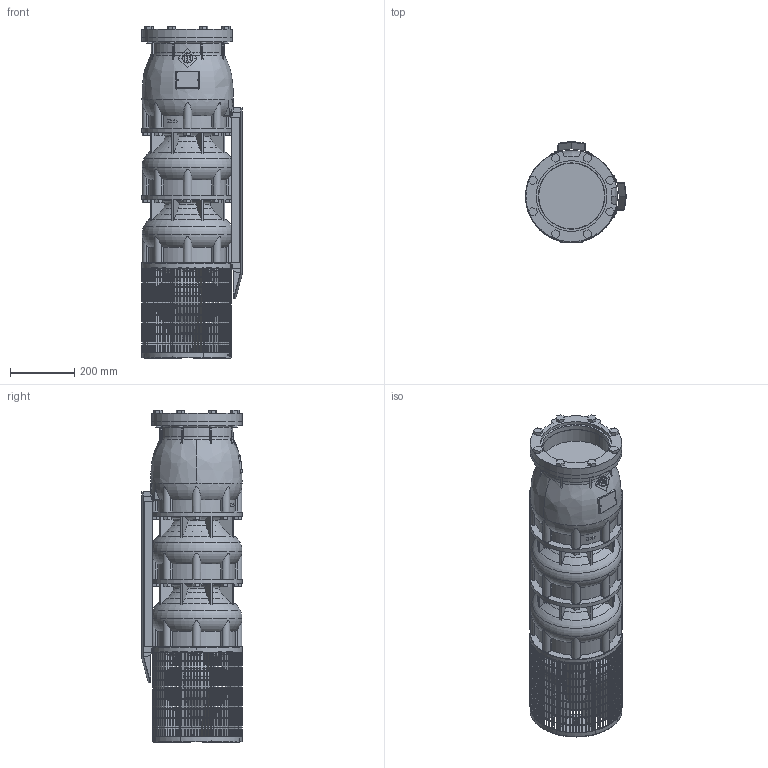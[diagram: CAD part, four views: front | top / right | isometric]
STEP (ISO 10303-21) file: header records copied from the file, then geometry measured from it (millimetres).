
FILE_DESCRIPTION(/* description */ ('-'),/* implementation_level */ '2;1');
FILE_NAME(/* name */ 'VSI344-2_WF_M10-50_SLE',/* time_stamp */ '2026-01-21T12:05:45+01:00',/* author */ ('Simonelli M.'),/* organization */ ('Franklin Electric Srl'),/* preprocessor_version */ 'ST-DEVELOPER v18.102',/* originating_system */ 'Solid Edge',/* authorisation */ 'Unknown');
FILE_SCHEMA (('AUTOMOTIVE_DESIGN {1 0 10303 214 3 1 1}'));
Products named in the file (12): VSI344-2_WF_M10-50_SLE; VSI344-454_testata; VSI344-454_supporto; VSI344-454_filtro_A; VSI344-454_filtro_B; VSI344-454_terminale_top_copricavo_medio; VSI344-454_terminale_bottom_copricavo_medio; MID 344-2; VSI344_diffusore; M5X8_UNI7687; VSI184-254_giunto_10×10; VSI344-454_flangia_testata
Assembly tree (26 placements, depth 2):
  VSI344-2_WF_M10-50_SLE
    VSI344-454_testata
    VSI344-454_supporto
    VSI344-454_filtro_A
    VSI344-454_filtro_B
    VSI344-454_terminale_top_copricavo_medio  x2
    VSI344-454_terminale_bottom_copricavo_medio  x2
    MID 344-2  x2
    VSI344_diffusore  x2
    M5X8_UNI7687  x12
    VSI184-254_giunto_10×10
    VSI344-454_flangia_testata
Bounding box: 314.3 x 314.3 x 1035 mm (x, y, z)
Volume: 38355442.2 mm3; surface area: 2587001.7 mm2
Topology: 91 solids, 91 shells, 4129 faces, 11603 edges, 7705 vertices
Faces by surface type: plane 3360, cylinder 484, torus 177, cone 81, bspline 15, sphere 12
Full cylindrical faces by diameter (mm): 5 x12, 16 x8, 35 x1, 65 x1, 69 x1, 150 x1, 207 x1, 220.5 x1, 285 x2
Entity records: 124601 total; most frequent: CARTESIAN_POINT 28077, ORIENTED_EDGE 20264, DIRECTION 19370, EDGE_CURVE 10132, VERTEX_POINT 6757, AXIS2_PLACEMENT_3D 6543, LINE 6284, VECTOR 6284
